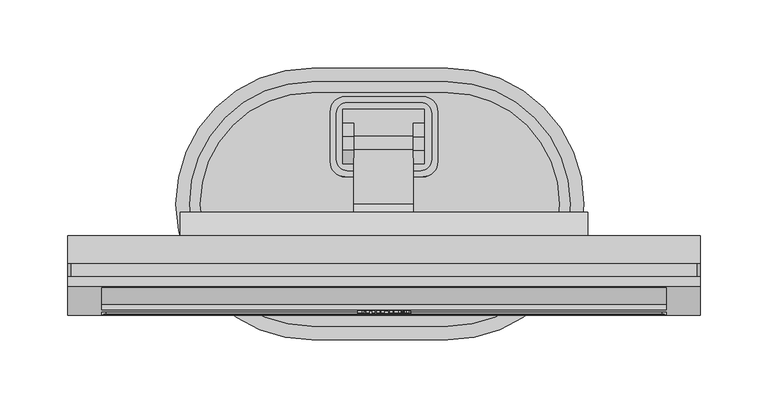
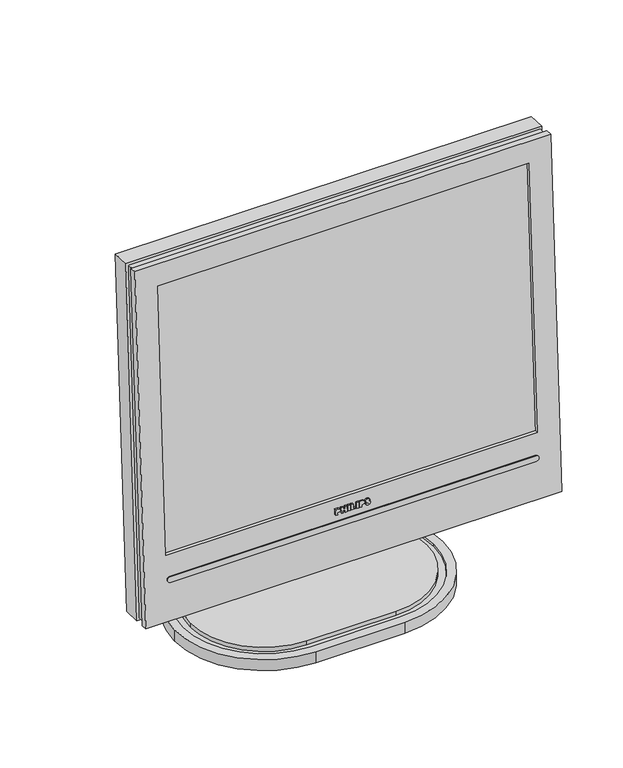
"""IFC4 building model written with IfcOpenShell, lengths in millimetres: furniture geometry, Monitor LCD Phillips 19'' : Monitor LCD Phillips 19''."""

from ifc_helpers import new_model, si_unit, point, frame, frame_2d, origin, place, context, project, spatial, polyline, circle_curve, trimmed, segment, composite_curve, outline, extrude, faceted_brep, source, transform, mapped, element, save
from ifc_brep_helpers import plane_surface, cylinder_surface, revolved_surface, advanced_brep


def furniture_1d481803(model_context):
    return source(origin(), model_context, "Body", "SolidModel", [
        extrude(outline(composite_curve([segment(trimmed(circle_curve(frame_2d((27.0, 66.5)), 8.0), [point((27.0, 74.5))], [point((35.0, 66.5))], False, "CARTESIAN"), True, "CONTINUOUS"), segment(polyline([(35.0, 66.5), (35.0, 32.5)]), True, "CONTINUOUS"), segment(trimmed(circle_curve(frame_2d((27.0, 32.5)), 8.0), [point((35.0, 32.5))], [point((27.0, 24.5))], False, "CARTESIAN"), True, "CONTINUOUS"), segment(polyline([(27.0, 24.5), (-27.0, 24.5)]), True, "CONTINUOUS"), segment(trimmed(circle_curve(frame_2d((-27.0, 32.5)), 8.0), [point((-27.0, 24.5))], [point((-35.0, 32.5))], False, "CARTESIAN"), True, "CONTINUOUS"), segment(polyline([(-35.0, 32.5), (-35.0, 66.5)]), True, "CONTINUOUS"), segment(trimmed(circle_curve(frame_2d((-27.0, 66.5)), 8.0), [point((-35.0, 66.5))], [point((-27.0, 74.5))], False, "CARTESIAN"), True, "CONTINUOUS"), segment(polyline([(-27.0, 74.5), (27.0, 74.5)]), True, "CONTINUOUS")], self_intersect=False)), frame((0.0, 0.0, 260.2541958), z_axis=(0.0, 0.0, 1.0), x_axis=(1.0, 0.0, 0.0)), (0.0, 0.0, 1.0), 89.7458042),
        extrude(outline(polyline([(6.5, 0.0), (6.5, -3.3177083), (5.9334406, -4.9407169), (4.3233762, -5.4803921), (2.6436122, -4.8979013), (2.0392158, -3.1205576), (2.0392158, -2.0392157), (0.0, -2.0392157), (0.0, 0.0), (6.5, 0.0)])), frame((-19.4362745, -78.863738, 150.8123238), z_axis=(0.0, -0.9986295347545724, 0.05233595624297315), x_axis=(0.0, 0.05233595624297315, 0.9986295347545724)), (0.0, 0.0, 1.0), 2.0),
        extrude(outline(polyline([(6.5, 0.0), (6.5, -2.0392157), (4.2058824, -2.0392157), (4.2058824, -4.2058823), (6.5, -4.2058823), (6.5, -6.245098), (0.0, -6.245098), (0.0, -4.2058823), (2.6764706, -4.2058823), (2.6764706, -2.0392157), (0.0, -2.0392157), (0.0, 0.0), (6.5, 0.0)])), frame((-12.9362745, -78.863738, 150.8123238), z_axis=(0.0, -0.9986295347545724, 0.05233595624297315), x_axis=(0.0, 0.05233595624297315, 0.9986295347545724)), (0.0, 0.0, 1.0), 2.0),
        extrude(outline(polyline([(0.0, -2.0392157), (0.0, 0.0), (1.9999999, 0.0), (1.9999999, -2.0392157), (0.0, -2.0392157)])), frame((-5.2892157, -80.860997, 150.9169958), z_axis=(0.0, 0.052335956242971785, 0.9986295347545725), x_axis=(0.0, 0.9986295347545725, -0.052335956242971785)), (0.0, 0.0, 1.0), 6.5),
        extrude(outline(polyline([(6.5, 0.0), (6.5, -2.0392157), (1.5294118, -2.0392157), (1.5294118, -5.0980392), (0.0, -5.0980392), (0.0, 0.0), (6.5, 0.0)])), frame((-1.8480392, -78.863738, 150.8123238), z_axis=(0.0, -0.9986295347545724, 0.05233595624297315), x_axis=(0.0, 0.05233595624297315, 0.9986295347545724)), (0.0, 0.0, 1.0), 2.0),
        extrude(outline(polyline([(0.0, -2.0392157), (0.0, 0.0), (1.9999999, 0.0), (1.9999999, -2.0392157), (0.0, -2.0392157)])), frame((4.2696078, -80.860997, 150.9169958), z_axis=(0.0, 0.052335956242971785, 0.9986295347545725), x_axis=(0.0, 0.9986295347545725, -0.052335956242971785)), (0.0, 0.0, 1.0), 6.5),
        extrude(outline(polyline([(6.5, 0.0), (6.5, -3.3177083), (5.9334406, -4.9407169), (4.3233762, -5.4803922), (2.6436122, -4.8979014), (2.0392158, -3.1205576), (2.0392158, -2.0392157), (0.0, -2.0392157), (0.0, 0.0), (6.5, 0.0)])), frame((7.7107843, -78.863738, 150.8123238), z_axis=(0.0, -0.9986295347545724, 0.05233595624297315), x_axis=(0.0, 0.05233595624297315, 0.9986295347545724)), (0.0, 0.0, 1.0), 2.0),
        extrude(outline(polyline([(1.7988006, 0.0), (1.0969927, -1.9186221), (-0.3540102, -2.3765759), (1.1924703, -2.6663003), (2.6691974, -1.2723674), (4.0426511, -1.2563725), (4.7937124, -1.8955766), (5.0910263, -2.962621), (4.6959363, -4.5066125), (3.5273152, -6.0359628), (1.8814051, -6.1536745), (2.5886894, -4.23744), (1.420475, -5.0533132), (0.4209155, -5.5147427), (-0.5789703, -5.3590501), (-1.5141413, -4.5765744), (-1.8758293, -3.3706678), (-1.5071867, -1.8325253), (0.0, 0.0), (1.7988006, 0.0)])), frame((14.5473346, -78.8364315, 151.3333612), z_axis=(0.0, -0.9986295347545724, 0.052335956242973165), x_axis=(-0.3996569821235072, 0.04797452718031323, 0.9154085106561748)), (0.0, 0.0, 1.0), 2.0),
        extrude(outline(composite_curve([segment(polyline([(59.5105994, 354.0), (29.5105994, 354.0), (29.5105994, 366.0)]), True, "CONTINUOUS"), segment(trimmed(circle_curve(frame_2d((39.5105994, 366.0)), 10.0), [point((29.5105994, 366.0))], [point((39.5105994, 376.0))], False, "CARTESIAN"), True, "CONTINUOUS"), segment(polyline([(39.5105994, 376.0), (49.5105994, 376.0)]), True, "CONTINUOUS"), segment(trimmed(circle_curve(frame_2d((49.5105994, 366.0)), 10.0), [point((49.5105994, 376.0))], [point((59.5105994, 366.0))], False, "CARTESIAN"), True, "CONTINUOUS"), segment(polyline([(59.5105994, 366.0), (59.5105994, 354.0)]), True, "CONTINUOUS")], self_intersect=False)), frame((-30.3108534, 0.0, 0.0), z_axis=(1.0, 0.0, 0.0), x_axis=(0.0, 1.0, 0.0)), (0.0, 0.0, 1.0), 8.1785149),
        extrude(outline(composite_curve([segment(polyline([(59.5105994, 354.0), (29.5105994, 354.0), (29.5105994, 366.0)]), True, "CONTINUOUS"), segment(trimmed(circle_curve(frame_2d((39.5105994, 366.0)), 10.0), [point((29.5105994, 366.0))], [point((39.5105994, 376.0))], False, "CARTESIAN"), True, "CONTINUOUS"), segment(polyline([(39.5105994, 376.0), (49.5105994, 376.0)]), True, "CONTINUOUS"), segment(trimmed(circle_curve(frame_2d((49.5105994, 366.0)), 10.0), [point((49.5105994, 376.0))], [point((59.5105994, 366.0))], False, "CARTESIAN"), True, "CONTINUOUS"), segment(polyline([(59.5105994, 366.0), (59.5105994, 354.0)]), True, "CONTINUOUS")], self_intersect=False)), frame((21.5106317, 0.0, 0.0), z_axis=(1.0, 0.0, 0.0), x_axis=(0.0, 1.0, 0.0)), (0.0, 0.0, 1.0), 8.1785149),
        extrude(outline(polyline([(29.6891466, 69.5105994), (29.6891466, 29.5105994), (-30.3108534, 29.5105994), (-30.3108534, 69.5105994), (29.6891466, 69.5105994)])), frame((0.0, 0.0, 350.0), z_axis=(0.0, 0.0, 1.0), x_axis=(1.0, 0.0, 0.0)), (0.0, 0.0, 1.0), 4.0),
        extrude(outline(composite_curve([segment(polyline([(7.2441311, 322.5845024), (-12.7284596, 323.6312215), (-9.4478058, 386.2298243), (0.2889646, 376.493054), (40.2341459, 374.3996157)]), True, "CONTINUOUS"), segment(trimmed(circle_curve(frame_2d((39.7107864, 364.4133204)), 10.0), [point((40.2341459, 374.3996157))], [point((49.6970817, 363.8899608))], False, "CARTESIAN"), True, "CONTINUOUS"), segment(trimmed(circle_curve(frame_2d((39.7107864, 364.4133204)), 10.0), [point((49.6970817, 363.8899608))], [point((39.1874268, 354.427025))], False, "CARTESIAN"), True, "CONTINUOUS"), segment(polyline([(39.1874268, 354.427025), (19.2148361, 355.4737441), (7.2441311, 322.5845024)]), True, "CONTINUOUS")], self_intersect=False)), frame((-22.1323385, 0.0, 0.0), z_axis=(1.0, 0.0, 0.0), x_axis=(0.0, 1.0, 0.0)), (0.0, 0.0, 1.0), 43.6429702),
        advanced_brep(
        [(27.5, 77.0, 250.0), (27.5, 77.0, 25.0), (-27.5, 77.0, 25.0), (-27.5, 77.0, 250.0), (-37.5, 67.0, 25.0), (-37.5, 67.0, 250.0), (-37.5, 32.0, 25.0), (-37.5, 32.0, 250.0), (-27.5, 22.0, 25.0), (-27.5, 22.0, 250.0), (27.5, 22.0, 25.0), (27.5, 22.0, 250.0), (37.5, 32.0, 25.0), (37.5, 32.0, 250.0), (37.5, 67.0, 25.0), (37.5, 67.0, 250.0), (28.5, 79.0, 260.2541958), (-28.5, 79.0, 260.2541958), (-39.5, 68.0, 260.2541958), (-39.5, 31.0, 260.2541958), (-28.5, 20.0, 260.2541958), (28.5, 20.0, 260.2541958), (39.5, 31.0, 260.2541958), (39.5, 68.0, 260.2541958), (28.5, 79.0, 250.0), (39.5, 68.0, 250.0), (39.5, 31.0, 250.0), (28.5, 20.0, 250.0), (-28.5, 20.0, 250.0), (-39.5, 31.0, 250.0), (-39.5, 68.0, 250.0), (-28.5, 79.0, 250.0), (28.5, 79.0, 25.0), (-28.5, 79.0, 25.0), (-39.5, 68.0, 25.0), (-39.5, 31.0, 25.0), (-28.5, 20.0, 25.0), (28.5, 20.0, 25.0), (39.5, 31.0, 25.0), (39.5, 68.0, 25.0), (28.5, 79.0, 15.0), (39.5, 68.0, 15.0), (39.5, 31.0, 15.0), (28.5, 20.0, 15.0), (-28.5, 20.0, 15.0), (-39.5, 31.0, 15.0), (-39.5, 68.0, 15.0), (-28.5, 79.0, 15.0)],
        [
            (0, 1),
            (1, 2),
            (2, 3),
            (3, 0),
            (2, 4, circle_curve(frame((-27.5, 67.0, 25.0), z_axis=(0.0, 0.0, 1.0), x_axis=(1.0, 0.0, 0.0)), 10.0)),
            (4, 5),
            (5, 3, circle_curve(frame((-27.5, 67.0, 250.0), z_axis=(0.0, 0.0, -1.0), x_axis=(1.0, 0.0, 0.0)), 10.0)),
            (4, 6),
            (6, 7),
            (7, 5),
            (6, 8, circle_curve(frame((-27.5, 32.0, 25.0), z_axis=(0.0, 0.0, 1.0), x_axis=(1.0, 0.0, 0.0)), 10.0)),
            (8, 9),
            (9, 7, circle_curve(frame((-27.5, 32.0, 250.0), z_axis=(0.0, 0.0, -1.0), x_axis=(1.0, 0.0, 0.0)), 10.0)),
            (8, 10),
            (10, 11),
            (11, 9),
            (10, 12, circle_curve(frame((27.5, 32.0, 25.0), z_axis=(0.0, 0.0, 1.0), x_axis=(1.0, 0.0, 0.0)), 10.0)),
            (12, 13),
            (13, 11, circle_curve(frame((27.5, 32.0, 250.0), z_axis=(0.0, 0.0, -1.0), x_axis=(1.0, 0.0, 0.0)), 10.0)),
            (12, 14),
            (14, 15),
            (15, 13),
            (0, 15, circle_curve(frame((27.5, 67.0, 250.0), z_axis=(0.0, 0.0, -1.0), x_axis=(1.0, 0.0, 0.0)), 10.0)),
            (14, 1, circle_curve(frame((27.5, 67.0, 25.0), z_axis=(0.0, 0.0, 1.0), x_axis=(1.0, 0.0, 0.0)), 10.0)),
            (16, 17),
            (17, 18, circle_curve(frame((-28.5, 68.0, 260.2541958), z_axis=(0.0, 0.0, 1.0), x_axis=(1.0, 0.0, 0.0)), 11.0)),
            (18, 19),
            (19, 20, circle_curve(frame((-28.5, 31.0, 260.2541958), z_axis=(0.0, 0.0, 1.0), x_axis=(1.0, 0.0, 0.0)), 11.0)),
            (20, 21),
            (21, 22, circle_curve(frame((28.5, 31.0, 260.2541958), z_axis=(0.0, 0.0, 1.0), x_axis=(1.0, 0.0, 0.0)), 11.0)),
            (22, 23),
            (23, 16, circle_curve(frame((28.5, 68.0, 260.2541958), z_axis=(0.0, 0.0, 1.0), x_axis=(1.0, 0.0, 0.0)), 11.0)),
            (24, 25, circle_curve(frame((28.5, 68.0, 250.0), z_axis=(0.0, 0.0, -1.0), x_axis=(1.0, 0.0, 0.0)), 11.0)),
            (25, 26),
            (26, 27, circle_curve(frame((28.5, 31.0, 250.0), z_axis=(0.0, 0.0, -1.0), x_axis=(1.0, 0.0, 0.0)), 11.0)),
            (27, 28),
            (28, 29, circle_curve(frame((-28.5, 31.0, 250.0), z_axis=(0.0, 0.0, -1.0), x_axis=(1.0, 0.0, 0.0)), 11.0)),
            (29, 30),
            (30, 31, circle_curve(frame((-28.5, 68.0, 250.0), z_axis=(0.0, 0.0, -1.0), x_axis=(1.0, 0.0, 0.0)), 11.0)),
            (31, 24),
            (16, 24),
            (31, 17),
            (30, 18),
            (29, 19),
            (28, 20),
            (27, 21),
            (26, 22),
            (25, 23),
            (32, 33),
            (33, 34, circle_curve(frame((-28.5, 68.0, 25.0), z_axis=(0.0, 0.0, 1.0), x_axis=(1.0, 0.0, 0.0)), 11.0)),
            (34, 35),
            (35, 36, circle_curve(frame((-28.5, 31.0, 25.0), z_axis=(0.0, 0.0, 1.0), x_axis=(1.0, 0.0, 0.0)), 11.0)),
            (36, 37),
            (37, 38, circle_curve(frame((28.5, 31.0, 25.0), z_axis=(0.0, 0.0, 1.0), x_axis=(1.0, 0.0, 0.0)), 11.0)),
            (38, 39),
            (39, 32, circle_curve(frame((28.5, 68.0, 25.0), z_axis=(0.0, 0.0, 1.0), x_axis=(1.0, 0.0, 0.0)), 11.0)),
            (40, 41, circle_curve(frame((28.5, 68.0, 15.0), z_axis=(0.0, 0.0, -1.0), x_axis=(1.0, 0.0, 0.0)), 11.0)),
            (41, 42),
            (42, 43, circle_curve(frame((28.5, 31.0, 15.0), z_axis=(0.0, 0.0, -1.0), x_axis=(1.0, 0.0, 0.0)), 11.0)),
            (43, 44),
            (44, 45, circle_curve(frame((-28.5, 31.0, 15.0), z_axis=(0.0, 0.0, -1.0), x_axis=(1.0, 0.0, 0.0)), 11.0)),
            (45, 46),
            (46, 47, circle_curve(frame((-28.5, 68.0, 15.0), z_axis=(0.0, 0.0, -1.0), x_axis=(1.0, 0.0, 0.0)), 11.0)),
            (47, 40),
            (32, 40),
            (47, 33),
            (46, 34),
            (45, 35),
            (44, 36),
            (43, 37),
            (42, 38),
            (41, 39),
        ],
        [
            plane_surface(frame((27.5, 77.0, 250.0), z_axis=(0.0, 1.0, 0.0), x_axis=(0.0, 0.0, -1.0))),
            cylinder_surface(frame((-27.5, 67.0, 25.0), z_axis=(0.0, 0.0, 1.0), x_axis=(1.0, 0.0, 0.0)), 10.0),
            plane_surface(frame((-37.5, 67.0, 250.0), z_axis=(-1.0, 0.0, 0.0), x_axis=(0.0, 0.0, -1.0))),
            cylinder_surface(frame((-27.5, 32.0, 25.0), z_axis=(0.0, 0.0, 1.0), x_axis=(1.0, 0.0, 0.0)), 10.0),
            plane_surface(frame((-27.5, 22.0, 250.0), z_axis=(0.0, -1.0, 0.0), x_axis=(0.0, 0.0, -1.0))),
            cylinder_surface(frame((27.5, 32.0, 25.0), z_axis=(0.0, 0.0, 1.0), x_axis=(1.0, 0.0, 0.0)), 10.0),
            plane_surface(frame((37.5, 32.0, 250.0), z_axis=(1.0, 0.0, 0.0), x_axis=(0.0, 0.0, -1.0))),
            cylinder_surface(frame((27.5, 67.0, 25.0), z_axis=(0.0, 0.0, 1.0), x_axis=(1.0, 0.0, 0.0)), 10.0),
            plane_surface(frame((-37.5, 79.0, 260.2541958), z_axis=(0.0, 0.0, 1.0), x_axis=(-1.0, 0.0, 0.0))),
            plane_surface(frame((-37.5, 79.0, 250.0), z_axis=(0.0, 0.0, -1.0), x_axis=(1.0, 0.0, 0.0))),
            plane_surface(frame((28.5, 79.0, 260.2541958), z_axis=(0.0, 1.0, 0.0), x_axis=(0.0, 0.0, -1.0))),
            cylinder_surface(frame((-28.5, 68.0, 250.0), z_axis=(0.0, 0.0, 1.0), x_axis=(1.0, 0.0, 0.0)), 11.0),
            plane_surface(frame((-39.5, 68.0, 260.2541958), z_axis=(-1.0, 0.0, 0.0), x_axis=(0.0, 0.0, -1.0))),
            cylinder_surface(frame((-28.5, 31.0, 250.0), z_axis=(0.0, 0.0, 1.0), x_axis=(1.0, 0.0, 0.0)), 11.0),
            plane_surface(frame((-28.5, 20.0, 260.2541958), z_axis=(0.0, -1.0, 0.0), x_axis=(0.0, 0.0, -1.0))),
            cylinder_surface(frame((28.5, 31.0, 250.0), z_axis=(0.0, 0.0, 1.0), x_axis=(1.0, 0.0, 0.0)), 11.0),
            plane_surface(frame((39.5, 31.0, 260.2541958), z_axis=(1.0, 0.0, 0.0), x_axis=(0.0, 0.0, -1.0))),
            cylinder_surface(frame((28.5, 68.0, 250.0), z_axis=(0.0, 0.0, 1.0), x_axis=(1.0, 0.0, 0.0)), 11.0),
            plane_surface(frame((-37.5, 79.0, 25.0), z_axis=(0.0, 0.0, 1.0), x_axis=(-1.0, 0.0, 0.0))),
            plane_surface(frame((-37.5, 79.0, 15.0), z_axis=(0.0, 0.0, -1.0), x_axis=(1.0, 0.0, 0.0))),
            plane_surface(frame((28.5, 79.0, 25.0), z_axis=(0.0, 1.0, 0.0), x_axis=(0.0, 0.0, -1.0))),
            cylinder_surface(frame((-28.5, 68.0, 15.0), z_axis=(0.0, 0.0, 1.0), x_axis=(1.0, 0.0, 0.0)), 11.0),
            plane_surface(frame((-39.5, 68.0, 25.0), z_axis=(-1.0, 0.0, 0.0), x_axis=(0.0, 0.0, -1.0))),
            cylinder_surface(frame((-28.5, 31.0, 15.0), z_axis=(0.0, 0.0, 1.0), x_axis=(1.0, 0.0, 0.0)), 11.0),
            plane_surface(frame((-28.5, 20.0, 25.0), z_axis=(0.0, -1.0, 0.0), x_axis=(0.0, 0.0, -1.0))),
            cylinder_surface(frame((28.5, 31.0, 15.0), z_axis=(0.0, 0.0, 1.0), x_axis=(1.0, 0.0, 0.0)), 11.0),
            plane_surface(frame((39.5, 31.0, 25.0), z_axis=(1.0, 0.0, 0.0), x_axis=(0.0, 0.0, -1.0))),
            cylinder_surface(frame((28.5, 68.0, 15.0), z_axis=(0.0, 0.0, 1.0), x_axis=(1.0, 0.0, 0.0)), 11.0),
        ],
        [
            (0, [[1, 2, 3, 4]]),
            (1, [[-3, 5, 6, 7]]),
            (2, [[-6, 8, 9, 10]]),
            (3, [[-9, 11, 12, 13]]),
            (4, [[-12, 14, 15, 16]]),
            (5, [[-15, 17, 18, 19]]),
            (6, [[-18, 20, 21, 22]]),
            (7, [[-1, 23, -21, 24]]),
            (8, [[25, 26, 27, 28, 29, 30, 31, 32]]),
            (9, [[33, 34, 35, 36, 37, 38, 39, 40], [-4, -7, -10, -13, -16, -19, -22, -23]]),
            (10, [[-25, 41, -40, 42]]),
            (11, [[-26, -42, -39, 43]]),
            (12, [[-27, -43, -38, 44]]),
            (13, [[-28, -44, -37, 45]]),
            (14, [[-29, -45, -36, 46]]),
            (15, [[-30, -46, -35, 47]]),
            (16, [[-31, -47, -34, 48]]),
            (17, [[-32, -48, -33, -41]]),
            (18, [[49, 50, 51, 52, 53, 54, 55, 56], [-2, -24, -20, -17, -14, -11, -8, -5]]),
            (19, [[57, 58, 59, 60, 61, 62, 63, 64]]),
            (20, [[-49, 65, -64, 66]]),
            (21, [[-50, -66, -63, 67]]),
            (22, [[-51, -67, -62, 68]]),
            (23, [[-52, -68, -61, 69]]),
            (24, [[-53, -69, -60, 70]]),
            (25, [[-54, -70, -59, 71]]),
            (26, [[-55, -71, -58, 72]]),
            (27, [[-56, -72, -57, -65]]),
        ],
    ),
        extrude(outline(composite_curve([segment(trimmed(circle_curve(frame_2d((46.9473561, 0.0)), 82.0), [point((46.9473561, 82.0))], [point((128.9473561, 0.0))], False, "CARTESIAN"), True, "CONTINUOUS"), segment(trimmed(circle_curve(frame_2d((46.9473561, 0.0)), 82.0), [point((128.9473561, 0.0))], [point((46.9473561, -82.0))], False, "CARTESIAN"), True, "CONTINUOUS"), segment(polyline([(46.9473561, -82.0), (-53.0526439, -82.0)]), True, "CONTINUOUS"), segment(trimmed(circle_curve(frame_2d((-53.0526439, 0.0)), 82.0), [point((-53.0526439, -82.0))], [point((-135.0526439, 0.0))], False, "CARTESIAN"), True, "CONTINUOUS"), segment(trimmed(circle_curve(frame_2d((-53.0526439, 0.0)), 82.0), [point((-135.0526439, 0.0))], [point((-53.0526439, 82.0))], False, "CARTESIAN"), True, "CONTINUOUS"), segment(polyline([(-53.0526439, 82.0), (46.9473561, 82.0)]), True, "CONTINUOUS")], self_intersect=False)), frame((0.0, 0.0, 10.0), z_axis=(0.0, 0.0, 1.0), x_axis=(1.0, 0.0, 0.0)), (0.0, 0.0, 1.0), 5.0),
        advanced_brep(
        [(46.9473561, 100.0, 13.0), (-53.0526439, 100.0, 13.0), (-153.0526439, 0.0, 13.0), (-53.0526439, -100.0, 13.0), (46.9473561, -100.0, 13.0), (146.9473561, 0.0, 13.0), (-53.0526439, 90.0, 13.0), (46.9473561, 90.0, 13.0), (136.9473561, 0.0, 13.0), (46.9473561, -90.0, 13.0), (-53.0526439, -90.0, 13.0), (-143.0526439, 0.0, 13.0), (46.9473561, 100.0, 0.0), (146.9473561, 0.0, 0.0), (46.9473561, -100.0, 0.0), (-53.0526439, -100.0, 0.0), (-153.0526439, 0.0, 0.0), (-53.0526439, 100.0, 0.0), (46.9473561, 90.0, 10.0), (-53.0526439, 90.0, 10.0), (-143.0526439, 0.0, 10.0), (-53.0526439, -90.0, 10.0), (46.9473561, -90.0, 10.0), (136.9473561, 0.0, 10.0)],
        [
            (0, 1),
            (1, 2, circle_curve(frame((-53.0526439, 0.0, 13.0), z_axis=(0.0, 0.0, 1.0), x_axis=(1.0, 0.0, 0.0)), 100.0)),
            (2, 3, circle_curve(frame((-53.0526439, 0.0, 13.0), z_axis=(0.0, 0.0, 1.0), x_axis=(1.0, 0.0, 0.0)), 100.0)),
            (3, 4),
            (4, 5, circle_curve(frame((46.9473561, 0.0, 13.0), z_axis=(0.0, 0.0, 1.0), x_axis=(1.0, 0.0, 0.0)), 100.0)),
            (5, 0, circle_curve(frame((46.9473561, 0.0, 13.0), z_axis=(0.0, 0.0, 1.0), x_axis=(1.0, 0.0, 0.0)), 100.0)),
            (6, 7),
            (7, 8, circle_curve(frame((46.9473561, 0.0, 13.0), z_axis=(0.0, 0.0, -1.0), x_axis=(1.0, 0.0, 0.0)), 90.0)),
            (8, 9, circle_curve(frame((46.9473561, 0.0, 13.0), z_axis=(0.0, 0.0, -1.0), x_axis=(1.0, 0.0, 0.0)), 90.0)),
            (9, 10),
            (10, 11, circle_curve(frame((-53.0526439, 0.0, 13.0), z_axis=(0.0, 0.0, -1.0), x_axis=(1.0, 0.0, 0.0)), 90.0)),
            (11, 6, circle_curve(frame((-53.0526439, 0.0, 13.0), z_axis=(0.0, 0.0, -1.0), x_axis=(1.0, 0.0, 0.0)), 90.0)),
            (12, 13, circle_curve(frame((46.9473561, 0.0, 0.0), z_axis=(0.0, 0.0, -1.0), x_axis=(1.0, 0.0, 0.0)), 100.0)),
            (13, 14, circle_curve(frame((46.9473561, 0.0, 0.0), z_axis=(0.0, 0.0, -1.0), x_axis=(1.0, 0.0, 0.0)), 100.0)),
            (14, 15),
            (15, 16, circle_curve(frame((-53.0526439, 0.0, 0.0), z_axis=(0.0, 0.0, -1.0), x_axis=(1.0, 0.0, 0.0)), 100.0)),
            (16, 17, circle_curve(frame((-53.0526439, 0.0, 0.0), z_axis=(0.0, 0.0, -1.0), x_axis=(1.0, 0.0, 0.0)), 100.0)),
            (17, 12),
            (0, 12),
            (17, 1),
            (16, 2),
            (15, 3),
            (14, 4),
            (13, 5),
            (18, 19),
            (19, 20, circle_curve(frame((-53.0526439, 0.0, 10.0), z_axis=(0.0, 0.0, 1.0), x_axis=(1.0, 0.0, 0.0)), 90.0)),
            (20, 21, circle_curve(frame((-53.0526439, 0.0, 10.0), z_axis=(0.0, 0.0, 1.0), x_axis=(1.0, 0.0, 0.0)), 90.0)),
            (21, 22),
            (22, 23, circle_curve(frame((46.9473561, 0.0, 10.0), z_axis=(0.0, 0.0, 1.0), x_axis=(1.0, 0.0, 0.0)), 90.0)),
            (23, 18, circle_curve(frame((46.9473561, 0.0, 10.0), z_axis=(0.0, 0.0, 1.0), x_axis=(1.0, 0.0, 0.0)), 90.0)),
            (18, 7),
            (6, 19),
            (11, 20),
            (10, 21),
            (9, 22),
            (8, 23),
        ],
        [
            plane_surface(frame((-153.0526439, 100.0, 13.0), z_axis=(0.0, 0.0, 1.0), x_axis=(-1.0, 0.0, 0.0))),
            plane_surface(frame((-153.0526439, 100.0, 0.0), z_axis=(0.0, 0.0, -1.0), x_axis=(1.0, 0.0, 0.0))),
            plane_surface(frame((46.9473561, 100.0, 13.0), z_axis=(0.0, 1.0, 0.0), x_axis=(0.0, 0.0, -1.0))),
            cylinder_surface(frame((-53.0526439, 0.0, 0.0), z_axis=(0.0, 0.0, 1.0), x_axis=(1.0, 0.0, 0.0)), 100.0),
            plane_surface(frame((-53.0526439, -100.0, 13.0), z_axis=(0.0, -1.0, 0.0), x_axis=(0.0, 0.0, -1.0))),
            cylinder_surface(frame((46.9473561, 0.0, 0.0), z_axis=(0.0, 0.0, 1.0), x_axis=(1.0, 0.0, 0.0)), 100.0),
            plane_surface(frame((-53.0526439, 90.0, 10.0), z_axis=(0.0, 0.0, 1.0), x_axis=(1.0, 0.0, 0.0))),
            plane_surface(frame((46.9473561, 90.0, 13.0), z_axis=(0.0, -1.0, 0.0), x_axis=(0.0, 0.0, -1.0))),
            revolved_surface(polyline([(36.9473561, 0.0, 13.0), (36.9473561, 0.0, 10.0)]), (-53.0526439, 0.0, 10.0), (0.0, 0.0, 1.0)),
            plane_surface(frame((-53.0526439, -90.0, 13.0), z_axis=(0.0, 1.0, 0.0), x_axis=(0.0, 0.0, -1.0))),
            revolved_surface(polyline([(136.9473561, 0.0, 13.0), (136.9473561, 0.0, 10.0)]), (46.9473561, 0.0, 10.0), (0.0, 0.0, 1.0)),
        ],
        [
            (0, [[1, 2, 3, 4, 5, 6], [7, 8, 9, 10, 11, 12]]),
            (1, [[13, 14, 15, 16, 17, 18]]),
            (2, [[-1, 19, -18, 20]]),
            (3, [[-2, -20, -17, 21]]),
            (3, [[-3, -21, -16, 22]]),
            (4, [[-4, -22, -15, 23]]),
            (5, [[-5, -23, -14, 24]]),
            (5, [[-6, -24, -13, -19]]),
            (6, [[25, 26, 27, 28, 29, 30]]),
            (7, [[-25, 31, -7, 32]]),
            (8, [[-26, -32, -12, 33]]),
            (8, [[-27, -33, -11, 34]]),
            (9, [[-28, -34, -10, 35]]),
            (10, [[-29, -35, -9, 36]]),
            (10, [[-30, -36, -8, -31]]),
        ],
    ),
        extrude(outline(polyline([(-6.1864651, 448.4599134), (-19.2704541, 198.8025297), (-40.2897639, 179.8766581), (-25.1123366, 469.4792232), (-6.1864651, 448.4599134)])), frame((-150.0, 0.0, 0.0), z_axis=(1.0, 0.0, 0.0), x_axis=(0.0, 1.0, 0.0)), (0.0, 0.0, 1.0), 300.0),
        faceted_brep([(232.5, -60.4915507, 501.3745396), (-232.5, -60.4915507, 501.3745396), (-232.5, -81.9492928, 91.9364304), (232.5, -81.9492928, 91.9364304), (-207.5, -61.7999496, 476.4088013), (207.5, -61.7999496, 476.4088013), (207.5, -77.9717601, 167.832275), (-207.5, -77.9717601, 167.832275), (232.5, -53.501144, 501.0081879), (232.5, -74.958886, 91.5700787), (-232.5, -74.958886, 91.5700787), (-232.5, -53.501144, 501.0081879), (207.5, -57.8054315, 476.1994574), (-207.5, -57.8054315, 476.1994574), (-207.5, -73.977242, 167.6229312), (207.5, -73.977242, 167.6229312)], [[[0, 1, 2, 3], [4, 5, 6, 7]], [[8, 9, 10, 11]], [[1, 0, 8, 11]], [[2, 1, 11, 10]], [[3, 2, 10, 9]], [[0, 3, 9, 8]], [[12, 13, 14, 15]], [[13, 12, 5, 4]], [[14, 13, 4, 7]], [[15, 14, 7, 6]], [[12, 15, 6, 5]]]),
        extrude(outline(polyline([(0.0, -465.0), (0.0, 0.0), (20.0, 0.0), (20.0, -465.0), (0.0, -465.0)])), frame((-232.5, -64.9725907, 91.0467191), z_axis=(0.0, 0.052335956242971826, 0.9986295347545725), x_axis=(0.0, 0.9986295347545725, -0.052335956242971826)), (0.0, 0.0, 1.0), 410.0),
        extrude(outline(polyline([(0.0, -460.0), (0.0, 0.0), (10.0, 0.0), (10.0, -460.0), (0.0, -460.0)])), frame((-230.0, -74.8280462, 94.0666525), z_axis=(0.0, 0.05233595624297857, 0.9986295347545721), x_axis=(0.0, 0.9986295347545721, -0.05233595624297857)), (0.0, 0.0, 1.0), 405.0),
        extrude(outline(composite_curve([segment(trimmed(circle_curve(frame_2d((401.2537705, -3.0000001)), 3.0), [point((401.2537705, 0.0))], [point((404.2537705, -3.0000001))], False, "CARTESIAN"), True, "CONTINUOUS"), segment(trimmed(circle_curve(frame_2d((401.2537705, -3.0000001)), 3.0), [point((404.2537705, -3.0000001))], [point((401.2537705, -6.0000001))], False, "CARTESIAN"), True, "CONTINUOUS"), segment(polyline([(401.2537705, -6.0000001), (-7.7462295, -6.0000001)]), True, "CONTINUOUS"), segment(trimmed(circle_curve(frame_2d((-7.7462295, -3.0000001)), 3.0), [point((-7.7462295, -6.0000001))], [point((-10.7462295, -3.0000001))], False, "CARTESIAN"), True, "CONTINUOUS"), segment(trimmed(circle_curve(frame_2d((-7.7462295, -3.0000001)), 3.0), [point((-10.7462295, -3.0000001))], [point((-7.7462295, 0.0))], False, "CARTESIAN"), True, "CONTINUOUS"), segment(polyline([(-7.7462295, 0.0), (401.2537705, 0.0)]), True, "CONTINUOUS")], self_intersect=False)), frame((-196.7537705, -79.280159, 142.8665367), z_axis=(0.0, -0.9986295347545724, 0.05233595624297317), x_axis=(1.0, 0.0, 0.0)), (0.0, 0.0, 1.0), 2.0),
    ])


if __name__ == "__main__":
    model = new_model("IFC4")
    model_context = context("Model", 3, world=origin())
    ifc_project = project(units=[si_unit("LENGTHUNIT", "METRE", prefix="MILLI")], contexts=[model_context])
    site = spatial("IfcSite", under=ifc_project)
    building = spatial("IfcBuilding", under=site)
    placement = place(None, origin())
    furniture_shape = furniture_1d481803(model_context)
    element("IfcFurniture", 1, ObjectType="Monitor LCD Phillips 19'' : Monitor LCD Phillips 19''", at=placement, inside=building, context=model_context, shape_type="MappedRepresentation", body=[
        mapped(furniture_shape, transform((0.0, 0.0, 0.0), x_axis=(1.0, 0.0, 0.0), y_axis=(0.0, 1.0, 0.0), z_axis=(0.0, 0.0, 1.0))),
    ])
    save(model, "model.ifc")
